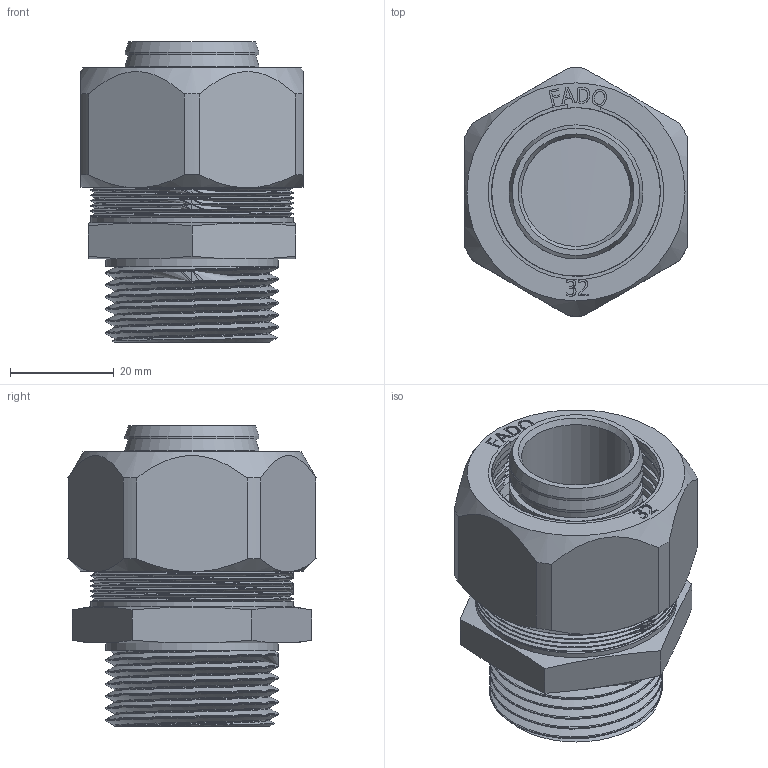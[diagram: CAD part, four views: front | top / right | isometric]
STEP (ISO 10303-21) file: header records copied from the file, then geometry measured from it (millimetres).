
FILE_DESCRIPTION(/* description */ (''),/* implementation_level */ '2;1');
FILE_NAME(/* name */ 'C:\Users\Doom\Desktop\Фадотех\Обжим\RFM28 32x1M 30.03.2020\RFM28 32x1M 30.03.2020.stp',/* time_stamp */ '2022-06-01T22:27:48+03:00',/* author */ ('Doom'),/* organization */ (''),/* preprocessor_version */ 'ST-DEVELOPER v18',/* originating_system */ 'Autodesk Inventor 2020',/* authorisation */ '');
FILE_SCHEMA (('AUTOMOTIVE_DESIGN { 1 0 10303 214 3 1 1 }'));
Length unit declared in the file: millimetre
Products named in the file (5): RFM28 32x1M 30.03.2020; RFM28 32x1M 30.03.2020_1; FADO MC Nut-32 15.02.2020; FADO MC Socket-32 15.02.2020; Olive 20 15.02.2020
Assembly tree (4 placements, depth 2):
  RFM28 32x1M 30.03.2020
    RFM28 32x1M 30.03.2020_1
    FADO MC Nut-32 15.02.2020
    FADO MC Socket-32 15.02.2020
    Olive 20 15.02.2020
Bounding box: 42.8 x 47.79 x 57.8 mm (x, y, z)
Volume: 39009.6 mm3; surface area: 41543.3 mm2
Topology: 7 solids, 7 shells, 560 faces, 1545 edges, 1040 vertices
Faces by surface type: bspline 272, plane 153, cylinder 103, cone 30, torus 2
Full cylindrical faces by diameter (mm): 21 x1, 23.6 x2, 25.5 x1, 25.8 x5, 26 x1, 29.866 x2, 29.995 x1, 30 x1, 30.5 x1, 32.5 x1, 33.29 x7, 36.5 x1, 37.517 x19, 38.2 x1, 39 x19
Entity records: 41354 total; most frequent: CARTESIAN_POINT 28755, ORIENTED_EDGE 3090, DIRECTION 1729, EDGE_CURVE 1545, VERTEX_POINT 1040, B_SPLINE_CURVE_WITH_KNOTS 647, EDGE_LOOP 613, LINE 581
